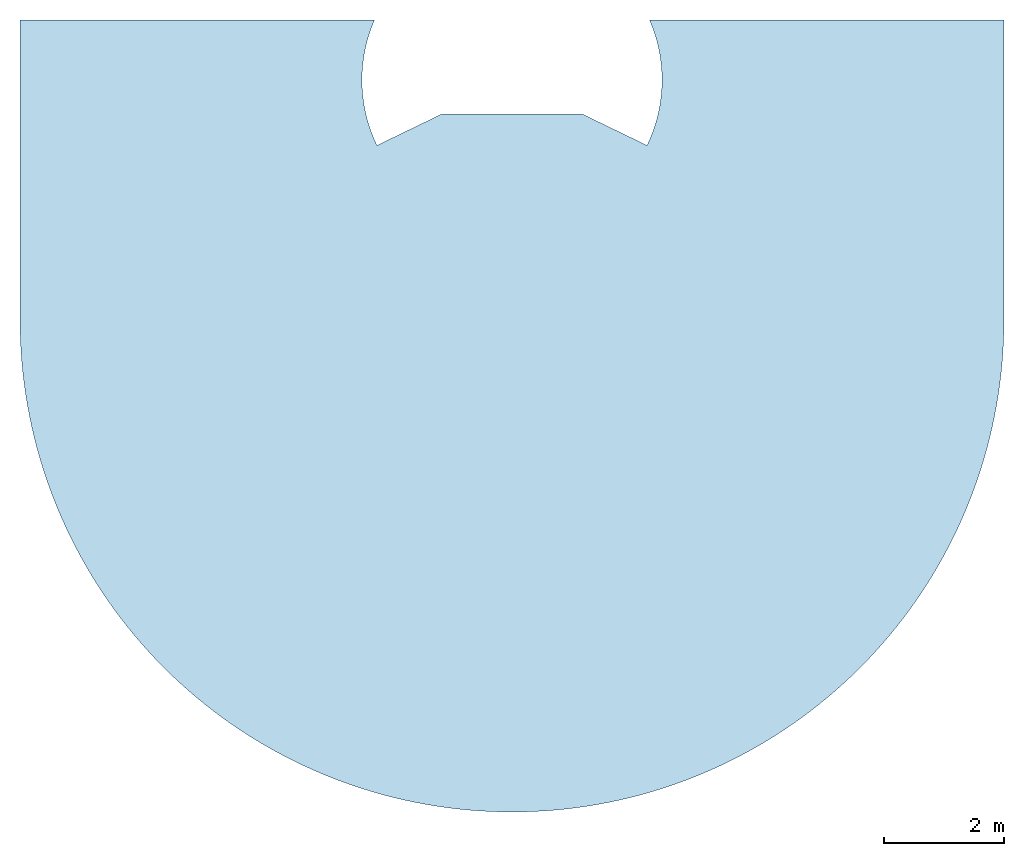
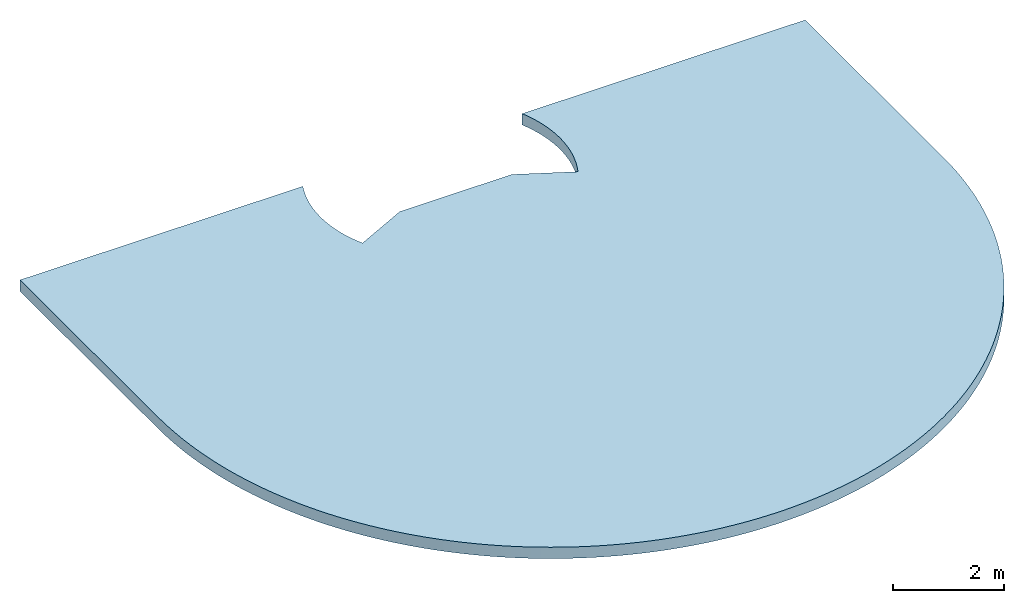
# One storey: 1 slab.
"""IFC4 building model written with IfcOpenShell, lengths in millimetres."""

from ifc_helpers import new_model, entity, si_unit, converted_unit, derived_unit, direction, frame, origin_with_axes, place, context, subcontext, project, spatial, line, arc, indexed_curve, outline, extrude, material, layer, layer_set, layer_usage, type_object, element, save


model = new_model("IFC4")

# Units and contexts
model_context = context("Model", 3, precision=0.01, world=origin_with_axes(), true_north=direction((0.0, 1.0)))
body_context = subcontext(model_context, "Body", "Model", "MODEL_VIEW")
ifc_project = project(units=[si_unit("LENGTHUNIT", "METRE", prefix="MILLI"), si_unit("AREAUNIT", "SQUARE_METRE"), si_unit("VOLUMEUNIT", "CUBIC_METRE"), converted_unit("PLANEANGLEUNIT", "DEGREE", entity("IfcPlaneAngleMeasure", 0.0174532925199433), si_unit("PLANEANGLEUNIT", "RADIAN"), dimensions=[0, 0, 0, 0, 0, 0, 0]), converted_unit("TIMEUNIT", "Year", entity("IfcTimeMeasure", 31557600.0), si_unit("TIMEUNIT", "SECOND"), dimensions=[0, 0, 1, 0, 0, 0, 0]), si_unit("MASSUNIT", "GRAM", prefix="KILO"), si_unit("THERMODYNAMICTEMPERATUREUNIT", "DEGREE_CELSIUS"), si_unit("LUMINOUSINTENSITYUNIT", "LUMEN"), si_unit("ENERGYUNIT", "JOULE", prefix="MEGA"), derived_unit("THERMALCONDUCTANCEUNIT", [(si_unit("POWERUNIT", "WATT"), 1), (si_unit("LENGTHUNIT", "METRE"), -1), (si_unit("THERMODYNAMICTEMPERATUREUNIT", "KELVIN"), -1)]), derived_unit("SPECIFICHEATCAPACITYUNIT", [(si_unit("ENERGYUNIT", "JOULE"), 1), (si_unit("MASSUNIT", "GRAM", prefix="KILO"), -1), (si_unit("THERMODYNAMICTEMPERATUREUNIT", "KELVIN"), -1)]), derived_unit("MASSDENSITYUNIT", [(si_unit("MASSUNIT", "GRAM", prefix="KILO"), 1), (si_unit("VOLUMEUNIT", "CUBIC_METRE"), -1)])], contexts=[model_context])

# Site, building, storey
site_placement = place(None, origin_with_axes())
site = spatial("IfcSite", under=ifc_project, at=site_placement, Name="Exteriér", CompositionType="ELEMENT")
building_placement = place(site_placement, origin_with_axes())
building = spatial("IfcBuilding", under=site, at=building_placement, Name="Univerzitní lezecké centrum", CompositionType="ELEMENT")
storey_placement = place(building_placement, frame((0.0, 0.0, 3200.0), z_axis=(0.0, 0.0, 1.0), x_axis=(1.0, 0.0, 0.0)))
storey = spatial("IfcBuildingStorey", under=building, at=storey_placement, Name="2.NP", CompositionType="ELEMENT", Elevation=3200.0)

# Slab
ifc_material = material(Name="Beton vyztužený stropy")
ifc_layer = layer(ifc_material, 250.0, ventilated="UNKNOWN", Name="Beton vyztužený stropy")
ifc_layer_set = layer_set([ifc_layer], Name="Beton vyztužený stropy 250")
ifc_layer_usage = layer_usage(ifc_layer_set, "AXIS3", "NEGATIVE", 250.0)
slab_type = type_object("IfcSlabType", Name="Beton vyztužený stropy 250", PredefinedType="FLOOR")
slab_placement = place(storey_placement, frame((-5750.14835114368, -300.1634077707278, -120.000000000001), z_axis=(0.0, 0.0, 1.0), x_axis=(1.0, 0.0, 0.0)))
element("IfcSlab", 1, at=slab_placement, inside=storey, type_object=slab_type, material=ifc_layer_usage, Name="D03", PredefinedType="FLOOR", context=body_context, shape_type="SweptSolid", body=[
    extrude(outline(indexed_curve([(0.0, 0.0), (2401.78309117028, -5798.16904730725), (8200.000000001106, -8199.836592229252), (13998.2413155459, -5798.193474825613), (16399.99999999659, -2.873151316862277e-05), (16400.00001936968, 5000.163407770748), (10491.28784747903, 5000.163407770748), (10699.51444415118, 3950.893300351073), (10450.09951274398, 2910.644163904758), (9370.051746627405, 3433.613400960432), (7029.948253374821, 3433.613400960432), (5949.900487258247, 2910.644163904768), (5700.485555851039, 3950.893300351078), (5908.712152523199, 5000.163407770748), (4.777032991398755e-06, 5000.163407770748)], segments=[arc(1, 2, 3), arc(3, 4, 5), line(5, 6, 7), arc(7, 8, 9), line(9, 10, 11, 12), arc(12, 13, 14), line(14, 15, 1)])), frame((0.0, 0.0, -250.0), z_axis=(0.0, 0.0, 1.0), x_axis=(1.0, 0.0, 0.0)), (0.0, 0.0, 1.0), 250.0),
])

save(model, "model.ifc")
